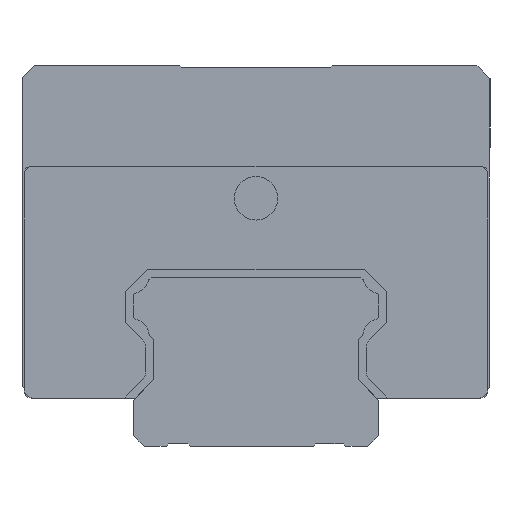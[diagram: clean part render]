
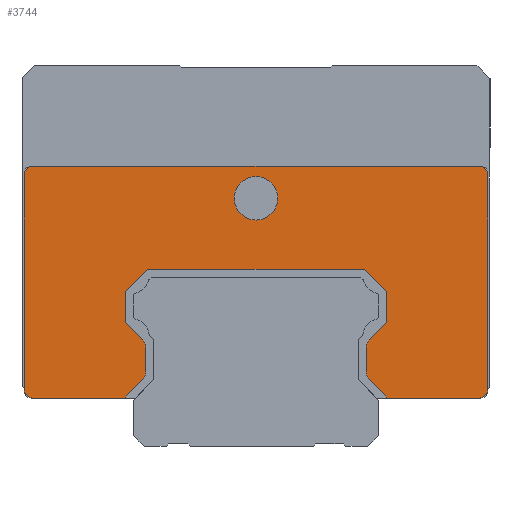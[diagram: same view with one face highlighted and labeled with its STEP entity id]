
A CAD part, left-side view. The second image highlights one B-rep face of the part: STEP entity #3744.
In plain terms, the highlighted planar face has unit normal (-1, 0, 0).
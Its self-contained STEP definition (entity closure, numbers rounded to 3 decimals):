
#2076=CARTESIAN_POINT('',(-16.0,-20.836,12.286));
#2077=VERTEX_POINT('',#2076);
#2078=CARTESIAN_POINT('',(-16.0,-24.221,8.9));
#2079=VERTEX_POINT('',#2078);
#2080=CARTESIAN_POINT('',(-16.0,-20.836,12.286));
#2081=DIRECTION('',(0.0,-0.707,-0.707));
#2082=VECTOR('',#2081,4.788);
#2083=LINE('',#2080,#2082);
#2084=EDGE_CURVE('',#2077,#2079,#2083,.T.);
#2116=CARTESIAN_POINT('',(-16.0,-20.25,13.7));
#2117=VERTEX_POINT('',#2116);
#2118=CARTESIAN_POINT('',(-16.0,-22.25,13.7));
#2119=DIRECTION('',(-1.0,0.0,0.0));
#2120=DIRECTION('',(0.0,-1.0,0.0));
#2121=AXIS2_PLACEMENT_3D('',#2118,#2119,#2120);
#2122=CIRCLE('',#2121,2.);
#2123=EDGE_CURVE('',#2117,#2077,#2122,.T.);
#2149=CARTESIAN_POINT('',(-16.0,-20.25,18.2));
#2150=VERTEX_POINT('',#2149);
#2151=CARTESIAN_POINT('',(-16.0,-20.25,18.2));
#2152=DIRECTION('',(0.0,0.0,-1.0));
#2153=VECTOR('',#2152,4.501);
#2154=LINE('',#2151,#2153);
#2155=EDGE_CURVE('',#2150,#2117,#2154,.T.);
#2180=CARTESIAN_POINT('',(-16.0,-20.836,19.614));
#2181=VERTEX_POINT('',#2180);
#2182=CARTESIAN_POINT('',(-16.0,-22.25,18.2));
#2183=DIRECTION('',(-1.,0.0,0.0));
#2184=DIRECTION('',(0.0,-0.707,-0.707));
#2185=AXIS2_PLACEMENT_3D('',#2182,#2183,#2184);
#2186=CIRCLE('',#2185,2.);
#2187=EDGE_CURVE('',#2181,#2150,#2186,.T.);
#2213=CARTESIAN_POINT('',(-16.0,-24.,22.779));
#2214=VERTEX_POINT('',#2213);
#2215=CARTESIAN_POINT('',(-16.0,-24.,22.779));
#2216=DIRECTION('',(0.0,0.707,-0.707));
#2217=VECTOR('',#2216,4.475);
#2218=LINE('',#2215,#2217);
#2219=EDGE_CURVE('',#2214,#2181,#2218,.T.);
#2244=CARTESIAN_POINT('',(-16.0,-24.,28.493));
#2245=VERTEX_POINT('',#2244);
#2246=CARTESIAN_POINT('',(-16.0,-24.,28.493));
#2247=DIRECTION('',(0.0,0.0,-1.0));
#2248=VECTOR('',#2247,5.715);
#2249=LINE('',#2246,#2248);
#2250=EDGE_CURVE('',#2245,#2214,#2249,.T.);
#2275=CARTESIAN_POINT('',(-16.0,-19.893,32.6));
#2276=VERTEX_POINT('',#2275);
#2277=CARTESIAN_POINT('',(-16.0,-19.893,32.6));
#2278=DIRECTION('',(0.0,-0.707,-0.707));
#2279=VECTOR('',#2278,5.808);
#2280=LINE('',#2277,#2279);
#2281=EDGE_CURVE('',#2276,#2245,#2280,.T.);
#2306=CARTESIAN_POINT('',(-16.0,19.893,32.6));
#2307=VERTEX_POINT('',#2306);
#2308=CARTESIAN_POINT('',(-16.0,19.893,32.6));
#2309=DIRECTION('',(0.0,-1.0,0.0));
#2310=VECTOR('',#2309,39.787);
#2311=LINE('',#2308,#2310);
#2312=EDGE_CURVE('',#2307,#2276,#2311,.T.);
#2337=CARTESIAN_POINT('',(-16.0,24.,28.493));
#2338=VERTEX_POINT('',#2337);
#2339=CARTESIAN_POINT('',(-16.0,24.,28.493));
#2340=DIRECTION('',(0.0,-0.707,0.707));
#2341=VECTOR('',#2340,5.808);
#2342=LINE('',#2339,#2341);
#2343=EDGE_CURVE('',#2338,#2307,#2342,.T.);
#2368=CARTESIAN_POINT('',(-16.0,24.,22.779));
#2369=VERTEX_POINT('',#2368);
#2370=CARTESIAN_POINT('',(-16.0,24.,22.779));
#2371=DIRECTION('',(0.0,0.0,1.0));
#2372=VECTOR('',#2371,5.715);
#2373=LINE('',#2370,#2372);
#2374=EDGE_CURVE('',#2369,#2338,#2373,.T.);
#2399=CARTESIAN_POINT('',(-16.0,20.836,19.614));
#2400=VERTEX_POINT('',#2399);
#2401=CARTESIAN_POINT('',(-16.0,20.836,19.614));
#2402=DIRECTION('',(0.0,0.707,0.707));
#2403=VECTOR('',#2402,4.475);
#2404=LINE('',#2401,#2403);
#2405=EDGE_CURVE('',#2400,#2369,#2404,.T.);
#2430=CARTESIAN_POINT('',(-16.0,20.25,18.2));
#2431=VERTEX_POINT('',#2430);
#2432=CARTESIAN_POINT('',(-16.0,22.25,18.2));
#2433=DIRECTION('',(-1.0,0.0,0.0));
#2434=DIRECTION('',(0.0,1.0,0.0));
#2435=AXIS2_PLACEMENT_3D('',#2432,#2433,#2434);
#2436=CIRCLE('',#2435,2.);
#2437=EDGE_CURVE('',#2431,#2400,#2436,.T.);
#2463=CARTESIAN_POINT('',(-16.0,20.25,13.7));
#2464=VERTEX_POINT('',#2463);
#2465=CARTESIAN_POINT('',(-16.0,20.25,13.7));
#2466=DIRECTION('',(0.0,0.0,1.0));
#2467=VECTOR('',#2466,4.501);
#2468=LINE('',#2465,#2467);
#2469=EDGE_CURVE('',#2464,#2431,#2468,.T.);
#2494=CARTESIAN_POINT('',(-16.0,20.836,12.286));
#2495=VERTEX_POINT('',#2494);
#2496=CARTESIAN_POINT('',(-16.0,22.25,13.7));
#2497=DIRECTION('',(-1.,0.0,0.0));
#2498=DIRECTION('',(0.0,0.707,0.707));
#2499=AXIS2_PLACEMENT_3D('',#2496,#2497,#2498);
#2500=CIRCLE('',#2499,2.);
#2501=EDGE_CURVE('',#2495,#2464,#2500,.T.);
#2527=CARTESIAN_POINT('',(-16.0,24.221,8.9));
#2528=VERTEX_POINT('',#2527);
#2529=CARTESIAN_POINT('',(-16.0,24.221,8.9));
#2530=DIRECTION('',(0.0,-0.707,0.707));
#2531=VECTOR('',#2530,4.788);
#2532=LINE('',#2529,#2531);
#2533=EDGE_CURVE('',#2528,#2495,#2532,.T.);
#3082=CARTESIAN_POINT('',(-16.0,41.,8.9));
#3083=VERTEX_POINT('',#3082);
#3084=CARTESIAN_POINT('',(-16.0,24.221,8.9));
#3085=DIRECTION('',(0.0,1.0,0.0));
#3086=VECTOR('',#3085,16.779);
#3087=LINE('',#3084,#3086);
#3088=EDGE_CURVE('',#2528,#3083,#3087,.T.);
#3113=CARTESIAN_POINT('',(-16.0,-4.,45.6));
#3114=VERTEX_POINT('',#3113);
#3115=CARTESIAN_POINT('',(-16.0,0.,45.6));
#3116=DIRECTION('',(1.0,0.0,0.0));
#3117=DIRECTION('',(0.0,1.0,0.0));
#3118=AXIS2_PLACEMENT_3D('',#3115,#3116,#3117);
#3119=CIRCLE('',#3118,4.0);
#3120=EDGE_CURVE('',#3114,#3114,#3119,.T.);
#3133=CARTESIAN_POINT('',(-16.0,42.6,10.5));
#3134=VERTEX_POINT('',#3133);
#3135=CARTESIAN_POINT('',(-16.0,41.,10.5));
#3136=DIRECTION('',(1.0,0.0,0.0));
#3137=DIRECTION('',(0.0,1.0,0.0));
#3138=AXIS2_PLACEMENT_3D('',#3135,#3136,#3137);
#3139=CIRCLE('',#3138,1.6);
#3140=EDGE_CURVE('',#3083,#3134,#3139,.T.);
#3158=CARTESIAN_POINT('',(-16.0,42.6,49.9));
#3159=VERTEX_POINT('',#3158);
#3160=CARTESIAN_POINT('',(-16.0,42.6,10.5));
#3161=DIRECTION('',(0.0,0.0,1.0));
#3162=VECTOR('',#3161,39.4);
#3163=LINE('',#3160,#3162);
#3164=EDGE_CURVE('',#3134,#3159,#3163,.T.);
#3182=CARTESIAN_POINT('',(-16.0,41.,51.5));
#3183=VERTEX_POINT('',#3182);
#3184=CARTESIAN_POINT('',(-16.0,41.,49.9));
#3185=DIRECTION('',(1.0,0.0,0.0));
#3186=DIRECTION('',(0.0,0.0,1.0));
#3187=AXIS2_PLACEMENT_3D('',#3184,#3185,#3186);
#3188=CIRCLE('',#3187,1.6);
#3189=EDGE_CURVE('',#3159,#3183,#3188,.T.);
#3207=CARTESIAN_POINT('',(-16.0,-41.,51.5));
#3208=VERTEX_POINT('',#3207);
#3209=CARTESIAN_POINT('',(-16.0,41.,51.5));
#3210=DIRECTION('',(0.0,-1.0,0.0));
#3211=VECTOR('',#3210,82.);
#3212=LINE('',#3209,#3211);
#3213=EDGE_CURVE('',#3183,#3208,#3212,.T.);
#3231=CARTESIAN_POINT('',(-16.0,-42.6,49.9));
#3232=VERTEX_POINT('',#3231);
#3233=CARTESIAN_POINT('',(-16.0,-41.,49.9));
#3234=DIRECTION('',(1.0,0.0,0.0));
#3235=DIRECTION('',(0.0,-1.,0.));
#3236=AXIS2_PLACEMENT_3D('',#3233,#3234,#3235);
#3237=CIRCLE('',#3236,1.6);
#3238=EDGE_CURVE('',#3208,#3232,#3237,.T.);
#3256=CARTESIAN_POINT('',(-16.0,-42.6,10.5));
#3257=VERTEX_POINT('',#3256);
#3258=CARTESIAN_POINT('',(-16.0,-42.6,49.9));
#3259=DIRECTION('',(0.0,0.0,-1.0));
#3260=VECTOR('',#3259,39.4);
#3261=LINE('',#3258,#3260);
#3262=EDGE_CURVE('',#3232,#3257,#3261,.T.);
#3280=CARTESIAN_POINT('',(-16.0,-41.,8.9));
#3281=VERTEX_POINT('',#3280);
#3282=CARTESIAN_POINT('',(-16.0,-41.,10.5));
#3283=DIRECTION('',(1.0,0.0,0.0));
#3284=DIRECTION('',(0.0,0.0,-1.0));
#3285=AXIS2_PLACEMENT_3D('',#3282,#3283,#3284);
#3286=CIRCLE('',#3285,1.6);
#3287=EDGE_CURVE('',#3257,#3281,#3286,.T.);
#3307=CARTESIAN_POINT('',(-16.0,-41.,8.9));
#3308=DIRECTION('',(0.0,1.0,0.0));
#3309=VECTOR('',#3308,16.779);
#3310=LINE('',#3307,#3309);
#3311=EDGE_CURVE('',#3281,#2079,#3310,.T.);
#3710=CARTESIAN_POINT('',(-16.0,0.,24.851));
#3711=DIRECTION('',(-1.0,0.0,0.0));
#3712=DIRECTION('',(0.0,0.0,-1.0));
#3713=AXIS2_PLACEMENT_3D('',#3710,#3711,#3712);
#3714=PLANE('',#3713);
#3715=ORIENTED_EDGE('',*,*,#2084,.T.);
#3716=ORIENTED_EDGE('',*,*,#3311,.F.);
#3717=ORIENTED_EDGE('',*,*,#3287,.F.);
#3718=ORIENTED_EDGE('',*,*,#3262,.F.);
#3719=ORIENTED_EDGE('',*,*,#3238,.F.);
#3720=ORIENTED_EDGE('',*,*,#3213,.F.);
#3721=ORIENTED_EDGE('',*,*,#3189,.F.);
#3722=ORIENTED_EDGE('',*,*,#3164,.F.);
#3723=ORIENTED_EDGE('',*,*,#3140,.F.);
#3724=ORIENTED_EDGE('',*,*,#3088,.F.);
#3725=ORIENTED_EDGE('',*,*,#2533,.T.);
#3726=ORIENTED_EDGE('',*,*,#2501,.T.);
#3727=ORIENTED_EDGE('',*,*,#2469,.T.);
#3728=ORIENTED_EDGE('',*,*,#2437,.T.);
#3729=ORIENTED_EDGE('',*,*,#2405,.T.);
#3730=ORIENTED_EDGE('',*,*,#2374,.T.);
#3731=ORIENTED_EDGE('',*,*,#2343,.T.);
#3732=ORIENTED_EDGE('',*,*,#2312,.T.);
#3733=ORIENTED_EDGE('',*,*,#2281,.T.);
#3734=ORIENTED_EDGE('',*,*,#2250,.T.);
#3735=ORIENTED_EDGE('',*,*,#2219,.T.);
#3736=ORIENTED_EDGE('',*,*,#2187,.T.);
#3737=ORIENTED_EDGE('',*,*,#2155,.T.);
#3738=ORIENTED_EDGE('',*,*,#2123,.T.);
#3739=EDGE_LOOP('',(#3715,#3716,#3717,#3718,#3719,#3720,#3721,#3722,#3723,#3724,#3725,#3726,#3727,#3728,#3729,#3730,#3731,#3732,#3733,#3734,#3735,#3736,#3737,#3738));
#3740=FACE_OUTER_BOUND('',#3739,.T.);
#3741=ORIENTED_EDGE('',*,*,#3120,.T.);
#3742=EDGE_LOOP('',(#3741));
#3743=FACE_BOUND('',#3742,.T.);
#3744=ADVANCED_FACE('',(#3740,#3743),#3714,.T.);
